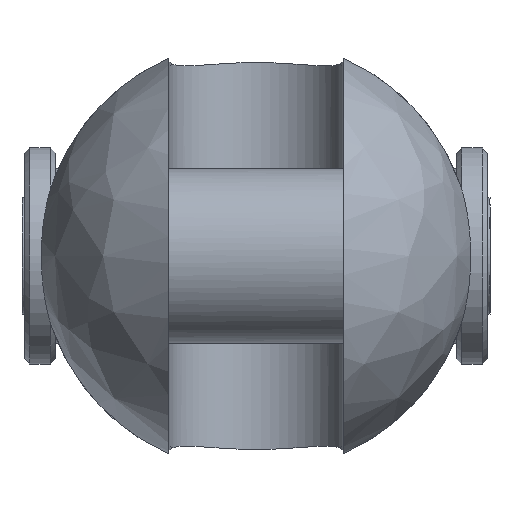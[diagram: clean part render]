
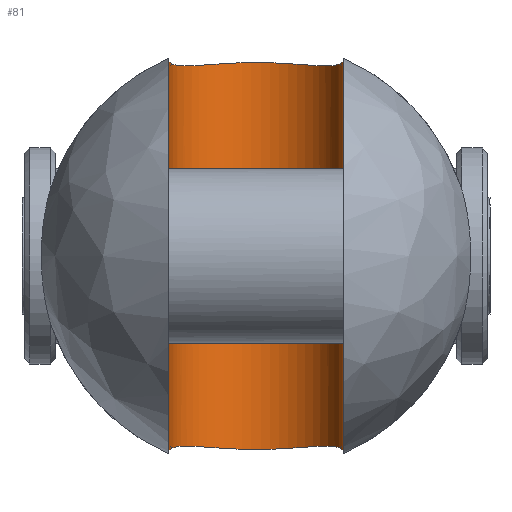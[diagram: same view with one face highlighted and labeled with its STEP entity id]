
A CAD part, left-side view. The second image highlights one B-rep face of the part: STEP entity #81.
In plain terms, the highlighted cylindrical face has radius 8.5 mm (diameter 17 mm), a partial arc.
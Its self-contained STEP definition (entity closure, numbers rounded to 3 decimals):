
#81=ADVANCED_FACE('',(#156),#1278,.F.);
#156=FACE_OUTER_BOUND('',#239,.T.);
#239=EDGE_LOOP('',(#511,#512,#513,#514,#515,#516,#517,#518));
#511=ORIENTED_EDGE('',*,*,#803,.F.);
#512=ORIENTED_EDGE('',*,*,#804,.F.);
#513=ORIENTED_EDGE('',*,*,#820,.F.);
#514=ORIENTED_EDGE('',*,*,#805,.F.);
#515=ORIENTED_EDGE('',*,*,#806,.F.);
#516=ORIENTED_EDGE('',*,*,#807,.F.);
#517=ORIENTED_EDGE('',*,*,#823,.F.);
#518=ORIENTED_EDGE('',*,*,#802,.F.);
#802=EDGE_CURVE('',#1181,#1182,#936,.T.);
#803=EDGE_CURVE('',#1183,#1181,#937,.T.);
#804=EDGE_CURVE('',#1184,#1183,#938,.T.);
#805=EDGE_CURVE('',#1186,#1185,#939,.T.);
#806=EDGE_CURVE('',#1187,#1186,#940,.T.);
#807=EDGE_CURVE('',#1188,#1187,#941,.T.);
#820=EDGE_CURVE('',#1185,#1184,#946,.T.);
#823=EDGE_CURVE('',#1182,#1188,#947,.T.);
#936=B_SPLINE_CURVE_WITH_KNOTS('',3,(#2884,#2885,#2886,#2887),
 .UNSPECIFIED.,.F.,.F.,(4,4),(-2.683,0.),.UNSPECIFIED.);
#937=B_SPLINE_CURVE_WITH_KNOTS('',1,(#2888,#2889),.UNSPECIFIED.,.F.,.F.,
(2,2),(-38.027,0.),.UNSPECIFIED.);
#938=B_SPLINE_CURVE_WITH_KNOTS('',3,(#2890,#2891,#2892,#2893),
 .UNSPECIFIED.,.F.,.F.,(4,4),(-2.683,0.),.UNSPECIFIED.);
#939=B_SPLINE_CURVE_WITH_KNOTS('',3,(#2894,#2895,#2896,#2897),
 .UNSPECIFIED.,.F.,.F.,(4,4),(-2.683,0.),.UNSPECIFIED.);
#940=B_SPLINE_CURVE_WITH_KNOTS('',1,(#2898,#2899),.UNSPECIFIED.,.F.,.F.,
(2,2),(-38.027,0.),.UNSPECIFIED.);
#941=B_SPLINE_CURVE_WITH_KNOTS('',3,(#2900,#2901,#2902,#2903),
 .UNSPECIFIED.,.F.,.F.,(4,4),(-2.683,0.),.UNSPECIFIED.);
#946=B_SPLINE_CURVE_WITH_KNOTS('',3,(#2940,#2941,#2942,#2943,#2944,#2945,
#2946,#2947,#2948,#2949,#2950,#2951,#2952,#2953,#2954,#2955,#2956,#2957),
 .UNSPECIFIED.,.F.,.F.,(4,2,2,2,2,2,2,2,4),(0.,1.322,4.46,
7.619,10.778,13.936,17.095,20.233,
21.555),.UNSPECIFIED.);
#947=B_SPLINE_CURVE_WITH_KNOTS('',3,(#2964,#2965,#2966,#2967,#2968,#2969,
#2970,#2971,#2972,#2973,#2974,#2975,#2976,#2977,#2978,#2979,#2980,#2981),
 .UNSPECIFIED.,.F.,.F.,(4,2,2,2,2,2,2,2,4),(0.,1.322,4.46,
7.619,10.778,13.936,17.095,20.233,
21.555),.UNSPECIFIED.);
#1181=VERTEX_POINT('',#2827);
#1182=VERTEX_POINT('',#2828);
#1183=VERTEX_POINT('',#2829);
#1184=VERTEX_POINT('',#2830);
#1185=VERTEX_POINT('',#2831);
#1186=VERTEX_POINT('',#2832);
#1187=VERTEX_POINT('',#2833);
#1188=VERTEX_POINT('',#2834);
#1278=CYLINDRICAL_SURFACE('',#1434,8.5);
#1434=AXIS2_PLACEMENT_3D('',#2332,#1488,$);
#1488=DIRECTION('',(0.,0.,1.));
#2332=CARTESIAN_POINT('',(29.,0.,0.));
#2827=CARTESIAN_POINT('',(29.,8.5,19.013));
#2828=CARTESIAN_POINT('',(31.604,8.091,18.641));
#2829=CARTESIAN_POINT('',(29.,8.5,-19.013));
#2830=CARTESIAN_POINT('',(31.604,8.091,-18.641));
#2831=CARTESIAN_POINT('',(31.604,-8.091,-18.641));
#2832=CARTESIAN_POINT('',(29.,-8.5,-19.013));
#2833=CARTESIAN_POINT('',(29.,-8.5,19.013));
#2834=CARTESIAN_POINT('',(31.604,-8.091,18.641));
#2884=CARTESIAN_POINT('',(29.,8.5,19.013));
#2885=CARTESIAN_POINT('',(29.85,8.5,18.893));
#2886=CARTESIAN_POINT('',(30.746,8.368,18.765));
#2887=CARTESIAN_POINT('',(31.604,8.091,18.641));
#2888=CARTESIAN_POINT('',(29.,8.5,-19.013));
#2889=CARTESIAN_POINT('',(29.,8.5,19.013));
#2890=CARTESIAN_POINT('',(31.604,8.091,-18.641));
#2891=CARTESIAN_POINT('',(30.746,8.368,-18.765));
#2892=CARTESIAN_POINT('',(29.85,8.5,-18.893));
#2893=CARTESIAN_POINT('',(29.,8.5,-19.013));
#2894=CARTESIAN_POINT('',(29.,-8.5,-19.013));
#2895=CARTESIAN_POINT('',(29.85,-8.5,-18.893));
#2896=CARTESIAN_POINT('',(30.746,-8.368,-18.765));
#2897=CARTESIAN_POINT('',(31.604,-8.091,-18.641));
#2898=CARTESIAN_POINT('',(29.,-8.5,19.013));
#2899=CARTESIAN_POINT('',(29.,-8.5,-19.013));
#2900=CARTESIAN_POINT('',(31.604,-8.091,18.641));
#2901=CARTESIAN_POINT('',(30.746,-8.368,18.765));
#2902=CARTESIAN_POINT('',(29.85,-8.5,18.893));
#2903=CARTESIAN_POINT('',(29.,-8.5,19.013));
#2940=CARTESIAN_POINT('',(31.604,-8.091,-18.641));
#2941=CARTESIAN_POINT('',(32.02,-7.958,-18.581));
#2942=CARTESIAN_POINT('',(32.431,-7.789,-18.537));
#2943=CARTESIAN_POINT('',(33.769,-7.114,-18.437));
#2944=CARTESIAN_POINT('',(34.623,-6.451,-18.453));
#2945=CARTESIAN_POINT('',(35.964,-4.976,-18.543));
#2946=CARTESIAN_POINT('',(36.544,-4.059,-18.623));
#2947=CARTESIAN_POINT('',(37.312,-2.071,-18.746));
#2948=CARTESIAN_POINT('',(37.5,-1.001,-18.786));
#2949=CARTESIAN_POINT('',(37.5,1.001,-18.786));
#2950=CARTESIAN_POINT('',(37.312,2.071,-18.746));
#2951=CARTESIAN_POINT('',(36.544,4.059,-18.623));
#2952=CARTESIAN_POINT('',(35.964,4.976,-18.543));
#2953=CARTESIAN_POINT('',(34.623,6.451,-18.453));
#2954=CARTESIAN_POINT('',(33.769,7.114,-18.437));
#2955=CARTESIAN_POINT('',(32.431,7.789,-18.537));
#2956=CARTESIAN_POINT('',(32.02,7.958,-18.581));
#2957=CARTESIAN_POINT('',(31.604,8.091,-18.641));
#2964=CARTESIAN_POINT('',(31.604,8.091,18.641));
#2965=CARTESIAN_POINT('',(32.02,7.958,18.581));
#2966=CARTESIAN_POINT('',(32.431,7.789,18.537));
#2967=CARTESIAN_POINT('',(33.769,7.114,18.437));
#2968=CARTESIAN_POINT('',(34.623,6.451,18.453));
#2969=CARTESIAN_POINT('',(35.964,4.976,18.543));
#2970=CARTESIAN_POINT('',(36.544,4.059,18.623));
#2971=CARTESIAN_POINT('',(37.312,2.071,18.746));
#2972=CARTESIAN_POINT('',(37.5,1.001,18.786));
#2973=CARTESIAN_POINT('',(37.5,-1.001,18.786));
#2974=CARTESIAN_POINT('',(37.312,-2.071,18.746));
#2975=CARTESIAN_POINT('',(36.544,-4.059,18.623));
#2976=CARTESIAN_POINT('',(35.964,-4.976,18.543));
#2977=CARTESIAN_POINT('',(34.623,-6.451,18.453));
#2978=CARTESIAN_POINT('',(33.769,-7.114,18.437));
#2979=CARTESIAN_POINT('',(32.431,-7.789,18.537));
#2980=CARTESIAN_POINT('',(32.02,-7.958,18.581));
#2981=CARTESIAN_POINT('',(31.604,-8.091,18.641));
